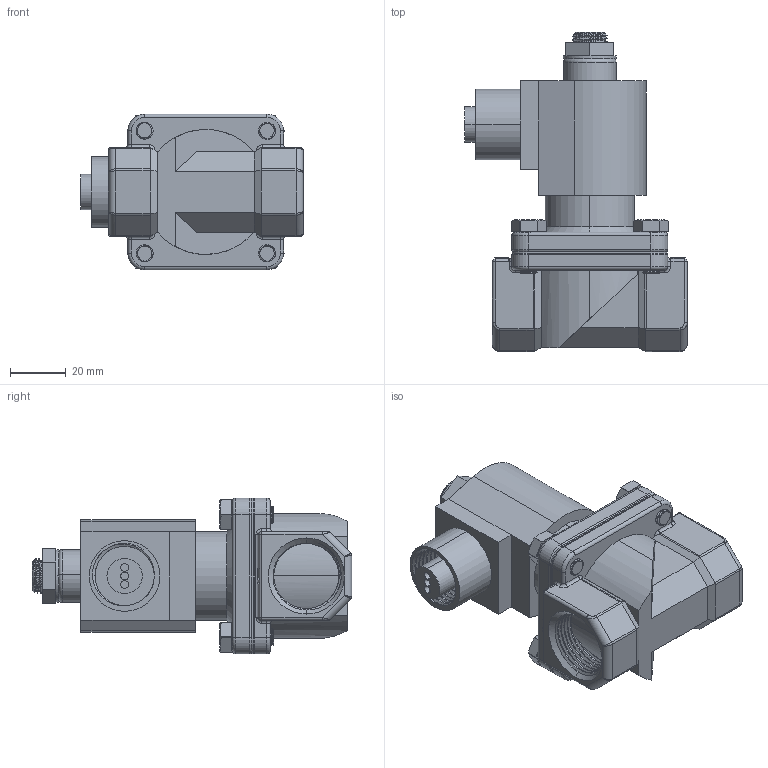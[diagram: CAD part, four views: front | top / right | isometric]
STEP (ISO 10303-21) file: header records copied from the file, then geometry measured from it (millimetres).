
FILE_DESCRIPTION (( 'STEP AP203' ), '1' );
FILE_NAME ('S202G_E.STEP', '2023-09-22T16:28:49', ( '' ), ( '' ), 'SwSTEP 2.0', 'SolidWorks 2023', '' );
FILE_SCHEMA (( 'CONFIG_CONTROL_DESIGN' ));
Products named in the file (1): S202G_E
Bounding box: 79.91 x 114.83 x 56.01 mm (x, y, z)
Volume: 180773.9 mm3; surface area: 32927.1 mm2
Topology: 1 solids, 1 shells, 486 faces, 1265 edges, 793 vertices
Faces by surface type: plane 197, cylinder 168, bspline 71, torus 30, cone 16, sphere 4
Entity records: 40368 total; most frequent: CARTESIAN_POINT 29562, ORIENTED_EDGE 2506, DIRECTION 1938, EDGE_CURVE 1253, VERTEX_POINT 793, AXIS2_PLACEMENT_3D 687, LINE 564, VECTOR 564
